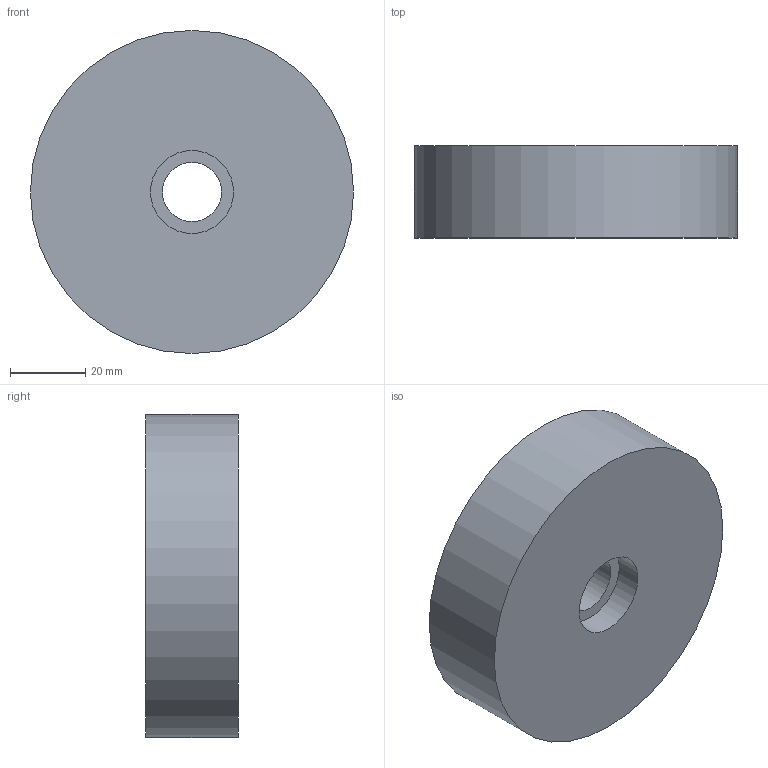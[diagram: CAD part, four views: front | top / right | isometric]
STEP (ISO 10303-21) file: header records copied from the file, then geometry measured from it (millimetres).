
FILE_DESCRIPTION(/* description */ ('STEP AP242 Edition 2','CAx-IF Rec.Pracs.---Representation and Presentation of Product Manufacturing Information (PMI)---4.0---2014-10-13','CAx-IF Rec.Pracs.---3D Tessellated Geometry---0.4---2014-09-14','2;1','CAx-IF Rec.Pracs.---User Defined Attributes---1.5---2016-08-15'),/* implementation_level */ '2;1');
FILE_NAME(/* name */ 'wheel - Unpowered Hub',/* time_stamp */ '2026-05-29T17:26:38Z',/* author */ (''),/* organization */ (''),/* preprocessor_version */ 'ST-DEVELOPER v20',/* originating_system */ 'ONSHAPE BY PTC INC, 1.215',/* authorisation */ ' ');
FILE_SCHEMA (('AP242_MANAGED_MODEL_BASED_3D_ENGINEERING_MIM_LF { 1 0 10303 442 3 1 4 }'));
Length unit declared in the file: metre
Products named in the file (1): Unpowered Hub
Bounding box: 85.6 x 24.4 x 85.6 mm (x, y, z)
Volume: 133090.5 mm3; surface area: 19164.5 mm2
Topology: 1 solids, 1 shells, 8 faces, 12 edges, 8 vertices
Faces by surface type: plane 4, cylinder 4
Full cylindrical faces by diameter (mm): 15.646 x1, 21.996 x2, 85.596 x1
Entity records: 190 total; most frequent: DIRECTION 34, CARTESIAN_POINT 25, AXIS2_PLACEMENT_3D 17, ORIENTED_EDGE 16, EDGE_LOOP 16, FACE_BOUND 16, EDGE_CURVE 8, VERTEX_POINT 8
